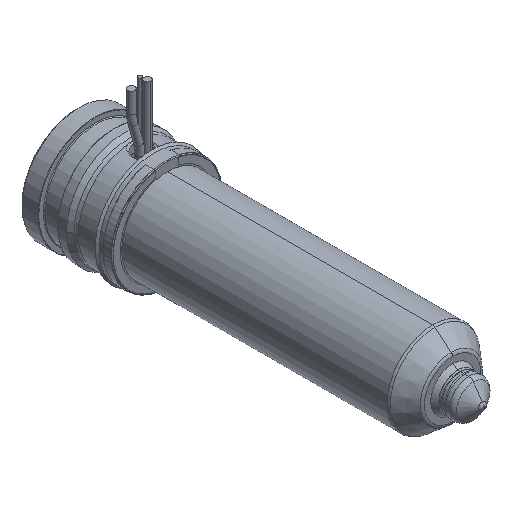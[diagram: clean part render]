
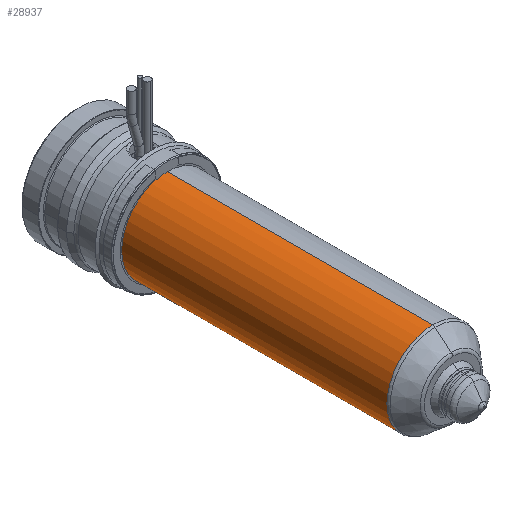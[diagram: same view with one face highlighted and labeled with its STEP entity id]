
A CAD part, isometric view. The second image highlights one B-rep face of the part: STEP entity #28937.
In plain terms, the highlighted cylindrical face has radius 12 mm (diameter 24 mm), a partial arc.
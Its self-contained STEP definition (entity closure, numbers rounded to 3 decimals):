
#28422=CARTESIAN_POINT('',(0.,-24.,0.));
#28423=DIRECTION('',(0.,1.,0.));
#28424=DIRECTION('',(0.,0.,-1.));
#28425=AXIS2_PLACEMENT_3D('',#28422,#28423,#28424);
#28430=DIRECTION('',(0.,1.,0.));
#28431=VECTOR('',#28430,69.736);
#28432=CARTESIAN_POINT('',(0.,-93.736,12.));
#28433=LINE('',#28432,#28431);
#28445=DIRECTION('',(0.,1.,0.));
#28446=VECTOR('',#28445,69.736);
#28447=CARTESIAN_POINT('',(0.,-93.736,-12.));
#28448=LINE('',#28447,#28446);
#28476=CARTESIAN_POINT('',(0.,-93.736,0.));
#28477=DIRECTION('',(0.,-1.,0.));
#28478=DIRECTION('',(0.,0.,1.));
#28479=AXIS2_PLACEMENT_3D('',#28476,#28477,#28478);
#28806=CARTESIAN_POINT('',(0.,-93.736,12.));
#28807=CARTESIAN_POINT('',(0.,-24.,12.));
#28808=VERTEX_POINT('',#28806);
#28809=VERTEX_POINT('',#28807);
#28810=CARTESIAN_POINT('',(0.,-93.736,-12.));
#28811=CARTESIAN_POINT('',(0.,-24.,-12.));
#28812=VERTEX_POINT('',#28810);
#28813=VERTEX_POINT('',#28811);
#28923=CARTESIAN_POINT('',(0.,-15.625,0.));
#28924=DIRECTION('',(0.,-1.,0.));
#28925=DIRECTION('',(0.,0.,1.));
#28926=AXIS2_PLACEMENT_3D('',#28923,#28924,#28925);
#28927=CYLINDRICAL_SURFACE('',#28926,12.);
#28929=ORIENTED_EDGE('',*,*,#28928,.F.);
#28931=ORIENTED_EDGE('',*,*,#28930,.T.);
#28933=ORIENTED_EDGE('',*,*,#28932,.T.);
#28934=ORIENTED_EDGE('',*,*,#28916,.T.);
#28935=EDGE_LOOP('',(#28929,#28931,#28933,#28934));
#28936=FACE_OUTER_BOUND('',#28935,.F.);
#28937=ADVANCED_FACE('',(#28936),#28927,.T.);
#28426=CIRCLE('',#28425,12.);
#28480=CIRCLE('',#28479,12.);
#28916=EDGE_CURVE('',#28813,#28809,#28426,.T.);
#28928=EDGE_CURVE('',#28808,#28809,#28433,.T.);
#28930=EDGE_CURVE('',#28808,#28812,#28480,.T.);
#28932=EDGE_CURVE('',#28812,#28813,#28448,.T.);
